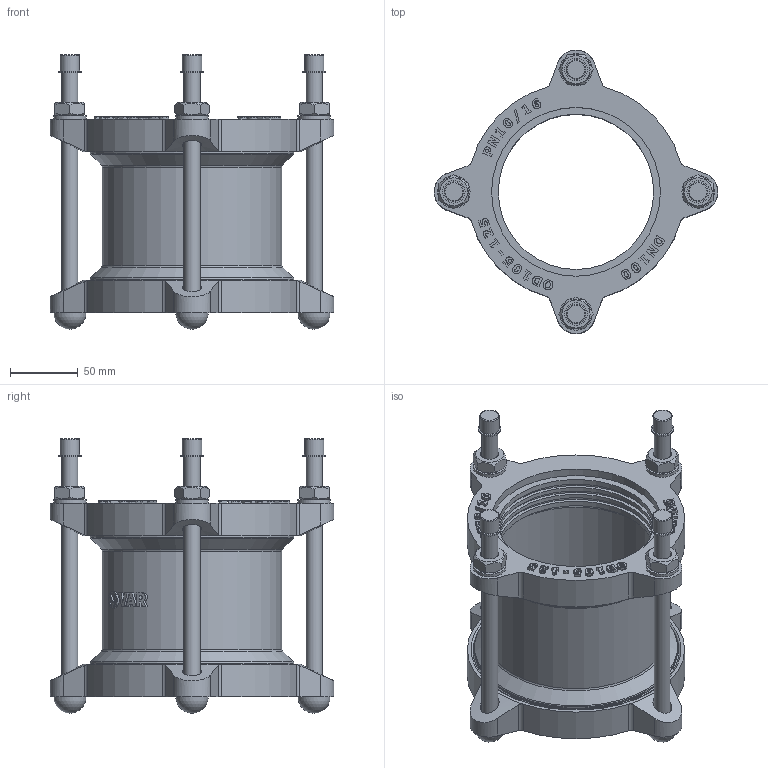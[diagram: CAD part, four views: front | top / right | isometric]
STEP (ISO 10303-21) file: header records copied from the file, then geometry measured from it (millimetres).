
FILE_DESCRIPTION(('STEP AP203'), '1');
FILE_NAME('Cîåäèíèòåëüíàÿ ìóôòà äëÿ æåñòêèõ òðóá', '', ('UNSPECIFIED'), ('UNSPECIFIED'), 'C3D Converter', 'C3D Toolkit', '');
FILE_SCHEMA(('CONFIG_CONTROL_DESIGN'));
Length unit declared in the file: millimetre
Assembly tree (21 placements, depth 2):
  (unnamed)
    (unnamed)
    (unnamed)  x4
    (unnamed)  x4
    (unnamed)  x4
    (unnamed)  x4
    (unnamed)
    (unnamed)
    (unnamed)  x2
Bounding box: 210 x 210 x 203.2 mm (x, y, z)
Volume: 852134.8 mm3; surface area: 320613 mm2
Topology: 25 solids, 25 shells, 759 faces, 1903 edges, 1250 vertices
Faces by surface type: extrusion 302, plane 292, cylinder 105, cone 34, torus 22, sphere 4
Full cylindrical faces by diameter (mm): 12 x12, 12.253 x1, 13 x4, 14 x8, 14.4 x4, 16.8 x4, 24 x4, 115 x8, 120 x6, 125 x3, 129 x2, 133 x3, 151 x2, 153 x4
Entity records: 29799 total; most frequent: CARTESIAN_POINT 10479, ORIENTED_EDGE 3274, DIRECTION 2145, EDGE_CURVE 1637, VERTEX_POINT 1120, VECTOR 1079, B_SPLINE_CURVE_WITH_KNOTS 966, EDGE_LOOP 795
